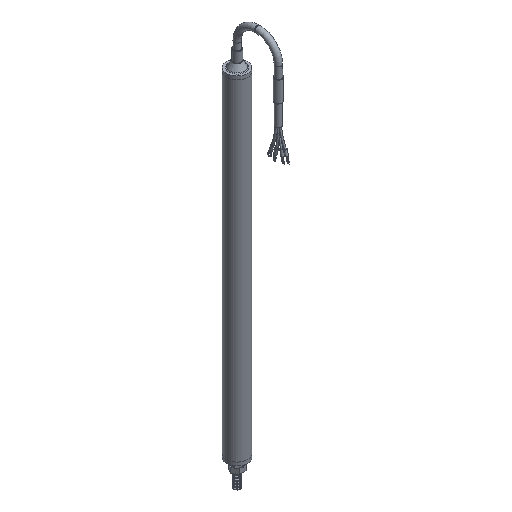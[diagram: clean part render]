
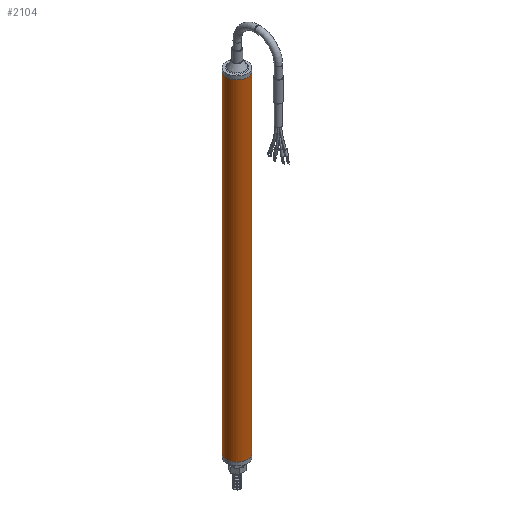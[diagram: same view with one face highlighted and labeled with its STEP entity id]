
A CAD part, isometric view. The second image highlights one B-rep face of the part: STEP entity #2104.
In plain terms, the highlighted cylindrical face has radius 6.35 mm (diameter 12.7 mm), a full revolution.
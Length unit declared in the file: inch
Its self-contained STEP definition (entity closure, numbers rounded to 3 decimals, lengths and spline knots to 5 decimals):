
#98=LINE('',#3305,#245);
#245=VECTOR('',#2707,0.25);
#391=CYLINDRICAL_SURFACE('',#2422,0.25);
#462=FACE_OUTER_BOUND('',#600,.T.);
#600=EDGE_LOOP('',(#1364,#1365,#1366,#1367,#1368));
#744=CIRCLE('',#2410,0.25);
#745=CIRCLE('',#2411,0.25);
#750=CIRCLE('',#2420,0.25);
#846=VERTEX_POINT('',#3282);
#847=VERTEX_POINT('',#3284);
#852=VERTEX_POINT('',#3300);
#1043=EDGE_CURVE('',#847,#846,#744,.T.);
#1044=EDGE_CURVE('',#846,#847,#745,.T.);
#1051=EDGE_CURVE('',#852,#852,#750,.T.);
#1052=EDGE_CURVE('',#852,#847,#98,.T.);
#1364=ORIENTED_EDGE('',*,*,#1051,.F.);
#1365=ORIENTED_EDGE('',*,*,#1052,.T.);
#1366=ORIENTED_EDGE('',*,*,#1043,.T.);
#1367=ORIENTED_EDGE('',*,*,#1044,.T.);
#1368=ORIENTED_EDGE('',*,*,#1052,.F.);
#2104=ADVANCED_FACE('',(#462),#391,.T.);
#2410=AXIS2_PLACEMENT_3D('',#3285,#2679,#2680);
#2411=AXIS2_PLACEMENT_3D('',#3286,#2681,#2682);
#2420=AXIS2_PLACEMENT_3D('',#3302,#2701,#2702);
#2422=AXIS2_PLACEMENT_3D('',#3304,#2705,#2706);
#2679=DIRECTION('center_axis',(0.,0.,-1.));
#2680=DIRECTION('ref_axis',(-1.,0.,0.));
#2681=DIRECTION('center_axis',(0.,0.,-1.));
#2682=DIRECTION('ref_axis',(-1.,0.,0.));
#2701=DIRECTION('center_axis',(0.,0.,-1.));
#2702=DIRECTION('ref_axis',(-1.,0.,0.));
#2705=DIRECTION('center_axis',(0.,0.,-1.));
#2706=DIRECTION('ref_axis',(-1.,0.,0.));
#2707=DIRECTION('',(0.,0.,1.));
#3282=CARTESIAN_POINT('',(0.,0.25,0.));
#3284=CARTESIAN_POINT('',(0.25,0.,0.));
#3285=CARTESIAN_POINT('Origin',(0.,0.,0.));
#3286=CARTESIAN_POINT('Origin',(0.,0.,0.));
#3300=CARTESIAN_POINT('',(0.25,0.,-7.91339));
#3302=CARTESIAN_POINT('Origin',(0.,0.,-7.91339));
#3304=CARTESIAN_POINT('Origin',(0.,0.,0.));
#3305=CARTESIAN_POINT('',(0.25,0.,0.));
